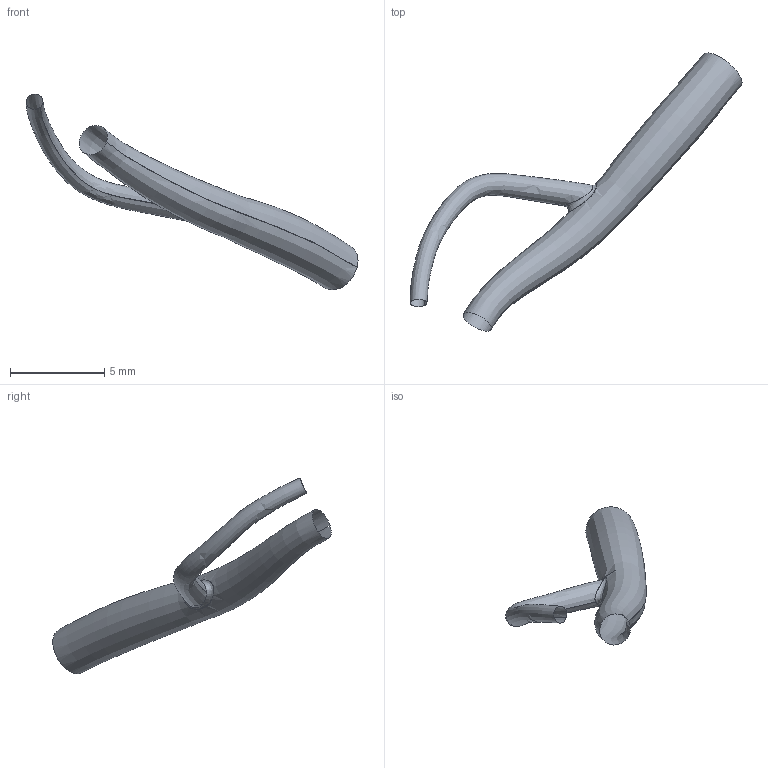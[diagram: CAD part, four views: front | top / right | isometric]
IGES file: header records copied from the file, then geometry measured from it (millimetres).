
Global section: file name: C:\Documents and Settings\Administrator\Desktop\FDA-Pig\Domestic RCA\Pig_000138\avc.es.igs; native system: Rhinoceros ( May 19 2006 ); preprocessor: Trout Lake IGES 012 May 19 2006; date: 111205.185928; units: centimetre
Bounding box: 17.63 x 14.79 x 10.41 mm (x, y, z)
Surface area: 193.1 mm2 (no closed solid volume)
Topology: 0 solids, 0 shells, 3 faces, 39 edges, 36 vertices
Faces by surface type: bspline 3
